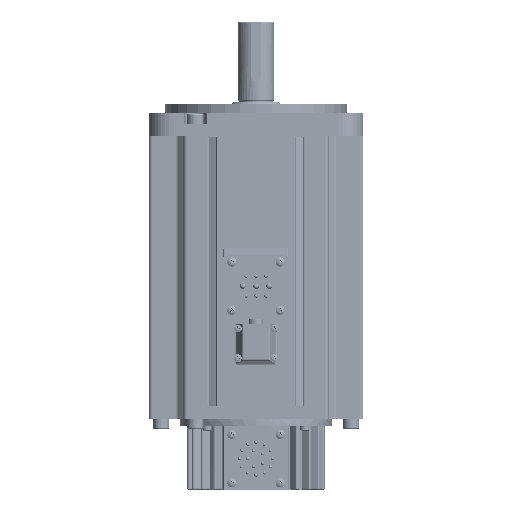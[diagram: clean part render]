
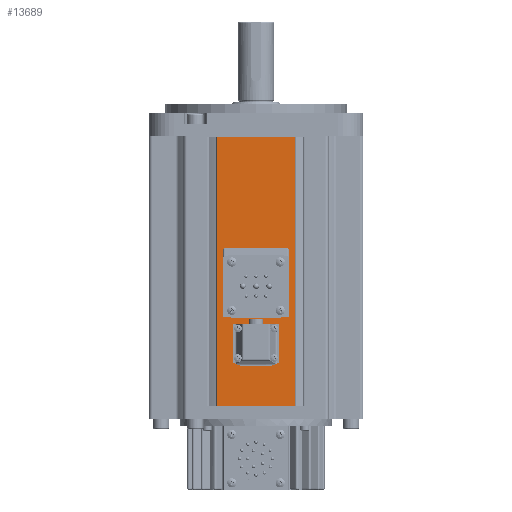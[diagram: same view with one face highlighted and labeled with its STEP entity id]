
A CAD part, left-side view. The second image highlights one B-rep face of the part: STEP entity #13689.
In plain terms, the highlighted planar face has unit normal (-1, 0, 0).
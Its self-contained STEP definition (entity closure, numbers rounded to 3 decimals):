
#9237=DIRECTION('',(0.,0.,1.));
#9238=VECTOR('',#9237,47.);
#9239=CARTESIAN_POINT('',(-65.,0.,-23.5));
#9240=LINE('',#9239,#9238);
#9376=DIRECTION('',(0.,0.,1.));
#9377=VECTOR('',#9376,47.);
#9378=CARTESIAN_POINT('',(-65.,163.,-23.5));
#9379=LINE('',#9378,#9377);
#10042=DIRECTION('',(0.,1.,0.));
#10043=VECTOR('',#10042,163.);
#10044=CARTESIAN_POINT('',(-65.,0.,23.5));
#10045=LINE('',#10044,#10043);
#10046=DIRECTION('',(0.,-1.,0.));
#10047=VECTOR('',#10046,163.);
#10048=CARTESIAN_POINT('',(-65.,163.,-23.5));
#10049=LINE('',#10048,#10047);
#10058=CARTESIAN_POINT('',(-65.,125.,5.5));
#10059=DIRECTION('',(-1.,0.,0.));
#10060=DIRECTION('',(0.,0.,-1.));
#10061=AXIS2_PLACEMENT_3D('',#10058,#10059,#10060);
#10063=CARTESIAN_POINT('',(-65.,125.,5.5));
#10064=DIRECTION('',(-1.,0.,0.));
#10065=DIRECTION('',(0.,0.,1.));
#10066=AXIS2_PLACEMENT_3D('',#10063,#10064,#10065);
#10068=CARTESIAN_POINT('',(-65.,125.,-5.5));
#10069=DIRECTION('',(-1.,0.,0.));
#10070=DIRECTION('',(0.,0.,-1.));
#10071=AXIS2_PLACEMENT_3D('',#10068,#10069,#10070);
#10073=CARTESIAN_POINT('',(-65.,125.,-5.5));
#10074=DIRECTION('',(-1.,0.,0.));
#10075=DIRECTION('',(0.,0.,1.));
#10076=AXIS2_PLACEMENT_3D('',#10073,#10074,#10075);
#10078=CARTESIAN_POINT('',(-65.,95.,0.));
#10079=DIRECTION('',(-1.,0.,0.));
#10080=DIRECTION('',(0.,0.,-1.));
#10081=AXIS2_PLACEMENT_3D('',#10078,#10079,#10080);
#10083=CARTESIAN_POINT('',(-65.,95.,0.));
#10084=DIRECTION('',(-1.,0.,0.));
#10085=DIRECTION('',(0.,0.,1.));
#10086=AXIS2_PLACEMENT_3D('',#10083,#10084,#10085);
#10088=CARTESIAN_POINT('',(-65.,105.,-14.68));
#10089=DIRECTION('',(-1.,0.,0.));
#10090=DIRECTION('',(0.,1.,0.));
#10091=AXIS2_PLACEMENT_3D('',#10088,#10089,#10090);
#10093=CARTESIAN_POINT('',(-65.,105.,-14.68));
#10094=DIRECTION('',(-1.,0.,0.));
#10095=DIRECTION('',(0.,-1.,0.));
#10096=AXIS2_PLACEMENT_3D('',#10093,#10094,#10095);
#10098=CARTESIAN_POINT('',(-65.,75.64,-14.68));
#10099=DIRECTION('',(-1.,0.,0.));
#10100=DIRECTION('',(0.,1.,0.));
#10101=AXIS2_PLACEMENT_3D('',#10098,#10099,#10100);
#10103=CARTESIAN_POINT('',(-65.,75.64,-14.68));
#10104=DIRECTION('',(-1.,0.,0.));
#10105=DIRECTION('',(0.,-1.,0.));
#10106=AXIS2_PLACEMENT_3D('',#10103,#10104,#10105);
#10108=CARTESIAN_POINT('',(-65.,105.,14.68));
#10109=DIRECTION('',(-1.,0.,0.));
#10110=DIRECTION('',(0.,1.,0.));
#10111=AXIS2_PLACEMENT_3D('',#10108,#10109,#10110);
#10113=CARTESIAN_POINT('',(-65.,105.,14.68));
#10114=DIRECTION('',(-1.,0.,0.));
#10115=DIRECTION('',(0.,-1.,0.));
#10116=AXIS2_PLACEMENT_3D('',#10113,#10114,#10115);
#10118=CARTESIAN_POINT('',(-65.,75.64,14.68));
#10119=DIRECTION('',(-1.,0.,0.));
#10120=DIRECTION('',(0.,1.,0.));
#10121=AXIS2_PLACEMENT_3D('',#10118,#10119,#10120);
#10123=CARTESIAN_POINT('',(-65.,75.64,14.68));
#10124=DIRECTION('',(-1.,0.,0.));
#10125=DIRECTION('',(0.,-1.,0.));
#10126=AXIS2_PLACEMENT_3D('',#10123,#10124,#10125);
#10128=CARTESIAN_POINT('',(-65.,85.,9.));
#10129=DIRECTION('',(-1.,0.,0.));
#10130=DIRECTION('',(0.,1.,0.));
#10131=AXIS2_PLACEMENT_3D('',#10128,#10129,#10130);
#10133=CARTESIAN_POINT('',(-65.,85.,9.));
#10134=DIRECTION('',(-1.,0.,0.));
#10135=DIRECTION('',(0.,-1.,0.));
#10136=AXIS2_PLACEMENT_3D('',#10133,#10134,#10135);
#10138=CARTESIAN_POINT('',(-65.,134.,-11.));
#10139=DIRECTION('',(-1.,0.,0.));
#10140=DIRECTION('',(0.,1.,0.));
#10141=AXIS2_PLACEMENT_3D('',#10138,#10139,#10140);
#10143=CARTESIAN_POINT('',(-65.,134.,-11.));
#10144=DIRECTION('',(-1.,0.,0.));
#10145=DIRECTION('',(0.,-1.,0.));
#10146=AXIS2_PLACEMENT_3D('',#10143,#10144,#10145);
#10148=CARTESIAN_POINT('',(-65.,116.,-11.));
#10149=DIRECTION('',(-1.,0.,0.));
#10150=DIRECTION('',(0.,1.,0.));
#10151=AXIS2_PLACEMENT_3D('',#10148,#10149,#10150);
#10153=CARTESIAN_POINT('',(-65.,116.,-11.));
#10154=DIRECTION('',(-1.,0.,0.));
#10155=DIRECTION('',(0.,-1.,0.));
#10156=AXIS2_PLACEMENT_3D('',#10153,#10154,#10155);
#10158=CARTESIAN_POINT('',(-65.,134.,11.));
#10159=DIRECTION('',(-1.,0.,0.));
#10160=DIRECTION('',(0.,1.,0.));
#10161=AXIS2_PLACEMENT_3D('',#10158,#10159,#10160);
#10163=CARTESIAN_POINT('',(-65.,134.,11.));
#10164=DIRECTION('',(-1.,0.,0.));
#10165=DIRECTION('',(0.,-1.,0.));
#10166=AXIS2_PLACEMENT_3D('',#10163,#10164,#10165);
#10168=CARTESIAN_POINT('',(-65.,116.,11.));
#10169=DIRECTION('',(-1.,0.,0.));
#10170=DIRECTION('',(0.,1.,0.));
#10171=AXIS2_PLACEMENT_3D('',#10168,#10169,#10170);
#10173=CARTESIAN_POINT('',(-65.,116.,11.));
#10174=DIRECTION('',(-1.,0.,0.));
#10175=DIRECTION('',(0.,-1.,0.));
#10176=AXIS2_PLACEMENT_3D('',#10173,#10174,#10175);
#12450=CARTESIAN_POINT('',(-65.,163.,23.5));
#12452=VERTEX_POINT('',#12450);
#12456=CARTESIAN_POINT('',(-65.,0.,23.5));
#12457=VERTEX_POINT('',#12456);
#12458=CARTESIAN_POINT('',(-65.,0.,-23.5));
#12460=VERTEX_POINT('',#12458);
#12464=CARTESIAN_POINT('',(-65.,163.,-23.5));
#12465=VERTEX_POINT('',#12464);
#12474=CARTESIAN_POINT('',(-65.,106.25,-14.68));
#12475=CARTESIAN_POINT('',(-65.,103.75,-14.68));
#12476=VERTEX_POINT('',#12474);
#12477=VERTEX_POINT('',#12475);
#12478=CARTESIAN_POINT('',(-65.,76.89,-14.68));
#12479=CARTESIAN_POINT('',(-65.,74.39,-14.68));
#12480=VERTEX_POINT('',#12478);
#12481=VERTEX_POINT('',#12479);
#12482=CARTESIAN_POINT('',(-65.,106.25,14.68));
#12483=CARTESIAN_POINT('',(-65.,103.75,14.68));
#12484=VERTEX_POINT('',#12482);
#12485=VERTEX_POINT('',#12483);
#12486=CARTESIAN_POINT('',(-65.,76.89,14.68));
#12487=CARTESIAN_POINT('',(-65.,74.39,14.68));
#12488=VERTEX_POINT('',#12486);
#12489=VERTEX_POINT('',#12487);
#12490=CARTESIAN_POINT('',(-65.,86.25,9.));
#12491=CARTESIAN_POINT('',(-65.,83.75,9.));
#12492=VERTEX_POINT('',#12490);
#12493=VERTEX_POINT('',#12491);
#12494=CARTESIAN_POINT('',(-65.,125.,2.));
#12495=CARTESIAN_POINT('',(-65.,125.,9.));
#12496=VERTEX_POINT('',#12494);
#12497=VERTEX_POINT('',#12495);
#12498=CARTESIAN_POINT('',(-65.,125.,-9.));
#12499=CARTESIAN_POINT('',(-65.,125.,-2.));
#12500=VERTEX_POINT('',#12498);
#12501=VERTEX_POINT('',#12499);
#12502=CARTESIAN_POINT('',(-65.,95.,-7.5));
#12503=CARTESIAN_POINT('',(-65.,95.,7.5));
#12504=VERTEX_POINT('',#12502);
#12505=VERTEX_POINT('',#12503);
#12506=CARTESIAN_POINT('',(-65.,135.025,-11.));
#12507=CARTESIAN_POINT('',(-65.,132.975,-11.));
#12508=VERTEX_POINT('',#12506);
#12509=VERTEX_POINT('',#12507);
#12510=CARTESIAN_POINT('',(-65.,117.025,-11.));
#12511=CARTESIAN_POINT('',(-65.,114.975,-11.));
#12512=VERTEX_POINT('',#12510);
#12513=VERTEX_POINT('',#12511);
#12514=CARTESIAN_POINT('',(-65.,135.025,11.));
#12515=CARTESIAN_POINT('',(-65.,132.975,11.));
#12516=VERTEX_POINT('',#12514);
#12517=VERTEX_POINT('',#12515);
#12518=CARTESIAN_POINT('',(-65.,117.025,11.));
#12519=CARTESIAN_POINT('',(-65.,114.975,11.));
#12520=VERTEX_POINT('',#12518);
#12521=VERTEX_POINT('',#12519);
#13605=CARTESIAN_POINT('',(-65.,0.,-43.9));
#13606=DIRECTION('',(-1.,0.,0.));
#13607=DIRECTION('',(0.,0.,1.));
#13608=AXIS2_PLACEMENT_3D('',#13605,#13606,#13607);
#13609=PLANE('',#13608);
#13610=ORIENTED_EDGE('',*,*,#13013,.F.);
#13611=ORIENTED_EDGE('',*,*,#12896,.F.);
#13613=ORIENTED_EDGE('',*,*,#13612,.F.);
#13614=ORIENTED_EDGE('',*,*,#13030,.T.);
#13615=EDGE_LOOP('',(#13610,#13611,#13613,#13614));
#13616=FACE_OUTER_BOUND('',#13615,.F.);
#13618=ORIENTED_EDGE('',*,*,#13617,.T.);
#13620=ORIENTED_EDGE('',*,*,#13619,.T.);
#13621=EDGE_LOOP('',(#13618,#13620));
#13622=FACE_BOUND('',#13621,.F.);
#13624=ORIENTED_EDGE('',*,*,#13623,.T.);
#13626=ORIENTED_EDGE('',*,*,#13625,.T.);
#13627=EDGE_LOOP('',(#13624,#13626));
#13628=FACE_BOUND('',#13627,.F.);
#13630=ORIENTED_EDGE('',*,*,#13629,.T.);
#13632=ORIENTED_EDGE('',*,*,#13631,.T.);
#13633=EDGE_LOOP('',(#13630,#13632));
#13634=FACE_BOUND('',#13633,.F.);
#13636=ORIENTED_EDGE('',*,*,#13635,.T.);
#13638=ORIENTED_EDGE('',*,*,#13637,.T.);
#13639=EDGE_LOOP('',(#13636,#13638));
#13640=FACE_BOUND('',#13639,.F.);
#13642=ORIENTED_EDGE('',*,*,#13641,.T.);
#13644=ORIENTED_EDGE('',*,*,#13643,.T.);
#13645=EDGE_LOOP('',(#13642,#13644));
#13646=FACE_BOUND('',#13645,.F.);
#13648=ORIENTED_EDGE('',*,*,#13647,.T.);
#13650=ORIENTED_EDGE('',*,*,#13649,.T.);
#13651=EDGE_LOOP('',(#13648,#13650));
#13652=FACE_BOUND('',#13651,.F.);
#13654=ORIENTED_EDGE('',*,*,#13653,.T.);
#13656=ORIENTED_EDGE('',*,*,#13655,.T.);
#13657=EDGE_LOOP('',(#13654,#13656));
#13658=FACE_BOUND('',#13657,.F.);
#13660=ORIENTED_EDGE('',*,*,#13659,.T.);
#13662=ORIENTED_EDGE('',*,*,#13661,.T.);
#13663=EDGE_LOOP('',(#13660,#13662));
#13664=FACE_BOUND('',#13663,.F.);
#13666=ORIENTED_EDGE('',*,*,#13665,.T.);
#13668=ORIENTED_EDGE('',*,*,#13667,.T.);
#13669=EDGE_LOOP('',(#13666,#13668));
#13670=FACE_BOUND('',#13669,.F.);
#13672=ORIENTED_EDGE('',*,*,#13671,.T.);
#13674=ORIENTED_EDGE('',*,*,#13673,.T.);
#13675=EDGE_LOOP('',(#13672,#13674));
#13676=FACE_BOUND('',#13675,.F.);
#13678=ORIENTED_EDGE('',*,*,#13677,.T.);
#13680=ORIENTED_EDGE('',*,*,#13679,.T.);
#13681=EDGE_LOOP('',(#13678,#13680));
#13682=FACE_BOUND('',#13681,.F.);
#13684=ORIENTED_EDGE('',*,*,#13683,.T.);
#13686=ORIENTED_EDGE('',*,*,#13685,.T.);
#13687=EDGE_LOOP('',(#13684,#13686));
#13688=FACE_BOUND('',#13687,.F.);
#13689=ADVANCED_FACE('',(#13616,#13622,#13628,#13634,#13640,#13646,#13652,
#13658,#13664,#13670,#13676,#13682,#13688),#13609,.T.);
#10062=CIRCLE('',#10061,3.5);
#10067=CIRCLE('',#10066,3.5);
#10072=CIRCLE('',#10071,3.5);
#10077=CIRCLE('',#10076,3.5);
#10082=CIRCLE('',#10081,7.5);
#10087=CIRCLE('',#10086,7.5);
#10092=CIRCLE('',#10091,1.25);
#10097=CIRCLE('',#10096,1.25);
#10102=CIRCLE('',#10101,1.25);
#10107=CIRCLE('',#10106,1.25);
#10112=CIRCLE('',#10111,1.25);
#10117=CIRCLE('',#10116,1.25);
#10122=CIRCLE('',#10121,1.25);
#10127=CIRCLE('',#10126,1.25);
#10132=CIRCLE('',#10131,1.25);
#10137=CIRCLE('',#10136,1.25);
#10142=CIRCLE('',#10141,1.025);
#10147=CIRCLE('',#10146,1.025);
#10152=CIRCLE('',#10151,1.025);
#10157=CIRCLE('',#10156,1.025);
#10162=CIRCLE('',#10161,1.025);
#10167=CIRCLE('',#10166,1.025);
#10172=CIRCLE('',#10171,1.025);
#10177=CIRCLE('',#10176,1.025);
#12896=EDGE_CURVE('',#12460,#12457,#9240,.T.);
#13013=EDGE_CURVE('',#12457,#12452,#10045,.T.);
#13030=EDGE_CURVE('',#12465,#12452,#9379,.T.);
#13612=EDGE_CURVE('',#12465,#12460,#10049,.T.);
#13617=EDGE_CURVE('',#12496,#12497,#10062,.T.);
#13619=EDGE_CURVE('',#12497,#12496,#10067,.T.);
#13623=EDGE_CURVE('',#12500,#12501,#10072,.T.);
#13625=EDGE_CURVE('',#12501,#12500,#10077,.T.);
#13629=EDGE_CURVE('',#12504,#12505,#10082,.T.);
#13631=EDGE_CURVE('',#12505,#12504,#10087,.T.);
#13635=EDGE_CURVE('',#12476,#12477,#10092,.T.);
#13637=EDGE_CURVE('',#12477,#12476,#10097,.T.);
#13641=EDGE_CURVE('',#12480,#12481,#10102,.T.);
#13643=EDGE_CURVE('',#12481,#12480,#10107,.T.);
#13647=EDGE_CURVE('',#12484,#12485,#10112,.T.);
#13649=EDGE_CURVE('',#12485,#12484,#10117,.T.);
#13653=EDGE_CURVE('',#12488,#12489,#10122,.T.);
#13655=EDGE_CURVE('',#12489,#12488,#10127,.T.);
#13659=EDGE_CURVE('',#12492,#12493,#10132,.T.);
#13661=EDGE_CURVE('',#12493,#12492,#10137,.T.);
#13665=EDGE_CURVE('',#12508,#12509,#10142,.T.);
#13667=EDGE_CURVE('',#12509,#12508,#10147,.T.);
#13671=EDGE_CURVE('',#12512,#12513,#10152,.T.);
#13673=EDGE_CURVE('',#12513,#12512,#10157,.T.);
#13677=EDGE_CURVE('',#12516,#12517,#10162,.T.);
#13679=EDGE_CURVE('',#12517,#12516,#10167,.T.);
#13683=EDGE_CURVE('',#12520,#12521,#10172,.T.);
#13685=EDGE_CURVE('',#12521,#12520,#10177,.T.);
